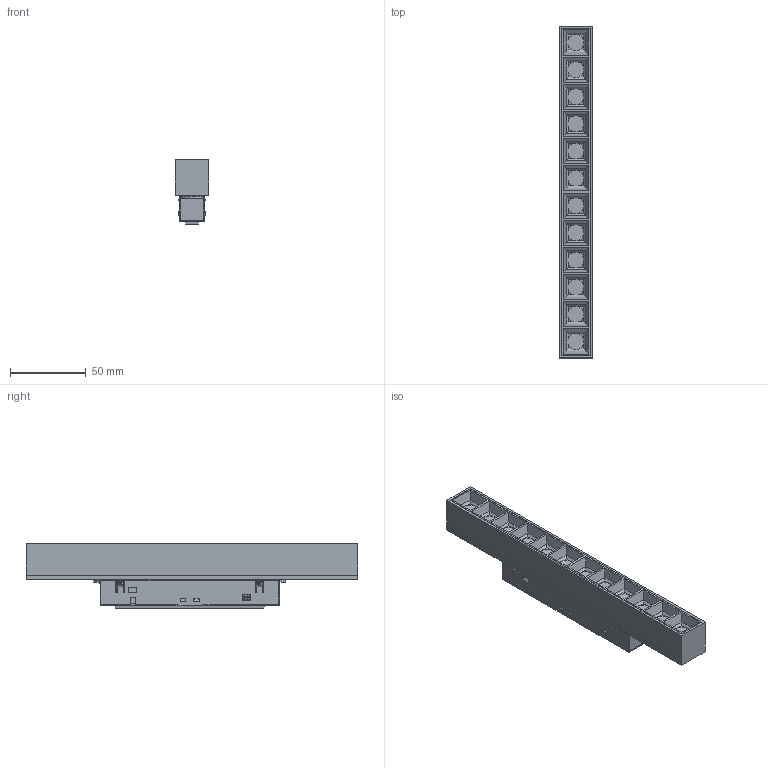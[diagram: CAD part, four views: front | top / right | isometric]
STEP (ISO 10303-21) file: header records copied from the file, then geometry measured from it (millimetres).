
FILE_DESCRIPTION((''),'2;1');
FILE_NAME('410097-A_ASM','2022-06-13T',('Administrator'),(''),'PRO/ENGINEER BY PARAMETRIC TECHNOLOGY CORPORATION, 2015070','PRO/ENGINEER BY PARAMETRIC TECHNOLOGY CORPORATION, 2015070','');
FILE_SCHEMA(('CONFIG_CONTROL_DESIGN','SHAPE_APPEARANCE_LAYERS_GROUPS'));
Products named in the file (37): GESHAN-12-TOU_5; 215X15MM-LVJIBAN_3; MANIFOLD_SOLID_BREP_9441_1; MANIFOLD_SOLID_BREP_9442_AF0_1; MANIFOLD_SOLID_BREP_9444_1; MANIFOLD_SOLID_BREP_9445_1; MANIFOLD_SOLID_BREP_9446_1; MANIFOLD_SOLID_BREP_9447_1; MANIFOLD_SOLID_BREP_9448_1; MANIFOLD_SOLID_BREP_9449_1; MANIFOLD_SOLID_BREP_9450_1; MANIFOLD_SOLID_BREP_9451_1; MANIFOLD_SOLID_BREP_9452_1; MANIFOLD_SOLID_BREP_9453_1; MANIFOLD_SOLID_BREP_9454_1; MANIFOLD_SOLID_BREP_9455_1; 903250E8922DVX0B_AF0_ASM_2_ASM; KY_18_8MM_3D_2022_ASM_3_ASM; ZUJIAN-GESHAN-12_ASM_9_ASM; MANIFOLD_SOLID_BREP_5140_2; _________________M2_5X5; MANIFOLD_SOLID_BREP_5136_8; 03_X_T; MANIFOLD_SOLID_BREP_5132_2; MANIFOLD_SOLID_BREP_5139_2; MANIFOLD_SOLID_BREP_5135_2; MANIFOLD_SOLID_BREP_53625; MANIFOLD_SOLID_BREP_45179; 08-22-W1_37_ASM_ASM; MANIFOLD_SOLID_BREP_5138_2; ________________M3X6; MANIFOLD_SOLID_BREP_5134_2; 08-20-PC1_6; MANIFOLD_SOLID_BREP_5137_2; MANIFOLD_SOLID_BREP_5133_2; 20__________________________GN-_ASM; 410097-A_ASM
Assembly tree (38 placements, depth 5):
  410097-A_ASM
    ZUJIAN-GESHAN-12_ASM_9_ASM
      GESHAN-12-TOU_5
      215X15MM-LVJIBAN_3
      KY_18_8MM_3D_2022_ASM_3_ASM
        903250E8922DVX0B_AF0_ASM_2_ASM
          MANIFOLD_SOLID_BREP_9441_1
          MANIFOLD_SOLID_BREP_9442_AF0_1
          MANIFOLD_SOLID_BREP_9444_1
          MANIFOLD_SOLID_BREP_9445_1
          MANIFOLD_SOLID_BREP_9446_1
          MANIFOLD_SOLID_BREP_9447_1
          MANIFOLD_SOLID_BREP_9448_1
          MANIFOLD_SOLID_BREP_9449_1
          MANIFOLD_SOLID_BREP_9450_1
          MANIFOLD_SOLID_BREP_9451_1
          MANIFOLD_SOLID_BREP_9452_1
          MANIFOLD_SOLID_BREP_9453_1
          MANIFOLD_SOLID_BREP_9454_1
          MANIFOLD_SOLID_BREP_9455_1
    20__________________________GN-_ASM
      MANIFOLD_SOLID_BREP_5140_2
      _________________M2_5X5  x2
      MANIFOLD_SOLID_BREP_5136_8
      03_X_T
      MANIFOLD_SOLID_BREP_5132_2
      MANIFOLD_SOLID_BREP_5139_2
      MANIFOLD_SOLID_BREP_5135_2
      08-22-W1_37_ASM_ASM
        MANIFOLD_SOLID_BREP_53625
        MANIFOLD_SOLID_BREP_45179
      MANIFOLD_SOLID_BREP_5138_2
      ________________M3X6  x2
      MANIFOLD_SOLID_BREP_5134_2
      08-20-PC1_6
      MANIFOLD_SOLID_BREP_5137_2
      MANIFOLD_SOLID_BREP_5133_2
Bounding box: 22 x 219 x 43 mm (x, y, z)
Volume: 57330.5 mm3; surface area: 97556.1 mm2
Topology: 33 solids, 33 shells, 2778 faces, 7826 edges, 5176 vertices
Faces by surface type: plane 1804, cylinder 495, cone 186, bspline 125, torus 90, revolution 72, sphere 6
Entity records: 108618 total; most frequent: CARTESIAN_POINT 25987, ORIENTED_EDGE 15432, DIRECTION 13884, EDGE_CURVE 7716, VERTEX_POINT 5117, VECTOR 4964, LINE 4964, AXIS2_PLACEMENT_3D 4424
